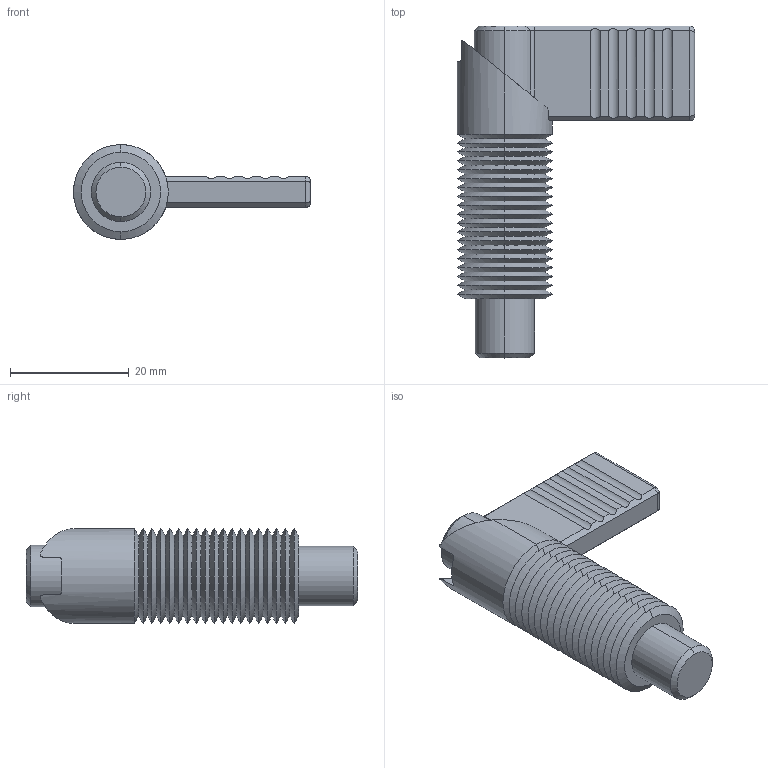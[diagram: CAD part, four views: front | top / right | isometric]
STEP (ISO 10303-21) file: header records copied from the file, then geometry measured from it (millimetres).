
FILE_DESCRIPTION (( 'STEP AP203' ), '1' );
FILE_NAME ('32501.W0329.step', '2016-02-10T17:21:11', ( 'User' ), ( '' ), 'SwSTEP 2.0', 'SolidWorks 2009', '' );
FILE_SCHEMA (( 'CONFIG_CONTROL_DESIGN' ));
Length unit declared in the file: millimetre
Products named in the file (3): Part1_32501.W0329; Part2_32501.W0329; 32501.W0329
Assembly tree (2 placements, depth 2):
  32501.W0329
    Part2_32501.W0329
    Part1_32501.W0329
Bounding box: 40 x 56 x 16 mm (x, y, z)
Volume: 8723.3 mm3; surface area: 7582.4 mm2
Topology: 2 solids, 2 shells, 155 faces, 344 edges, 196 vertices
Faces by surface type: cone 88, cylinder 41, plane 26
Entity records: 4569 total; most frequent: CARTESIAN_POINT 888, DIRECTION 746, ORIENTED_EDGE 688, EDGE_CURVE 344, AXIS2_PLACEMENT_3D 284, VERTEX_POINT 196, VECTOR 178, LINE 178
